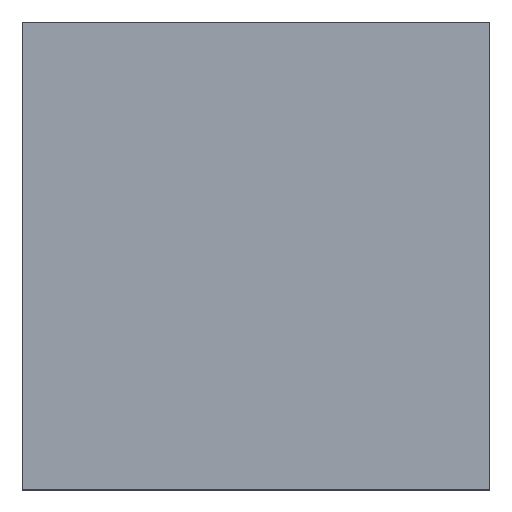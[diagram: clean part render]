
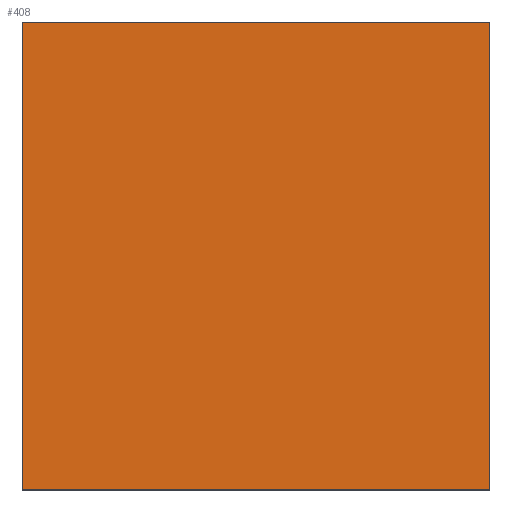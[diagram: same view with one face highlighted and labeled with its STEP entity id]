
A CAD part, top view. The second image highlights one B-rep face of the part: STEP entity #408.
In plain terms, the highlighted planar face has unit normal (0, 0, 1).
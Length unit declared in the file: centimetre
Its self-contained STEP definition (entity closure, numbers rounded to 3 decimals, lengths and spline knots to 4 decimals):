
#7 = EDGE_CURVE ( 'NONE', #375, #431, #370, .T. ) ;
#48 = CARTESIAN_POINT ( 'NONE',  ( 0., 1000., 1000. ) ) ;
#54 = LINE ( 'NONE', #210, #145 ) ;
#55 = VECTOR ( 'NONE', #372, 100. ) ;
#58 = LINE ( 'NONE', #48, #394 ) ;
#62 = ORIENTED_EDGE ( 'NONE', *, *, #207, .T. ) ;
#65 = EDGE_CURVE ( 'NONE', #392, #464, #54, .T. ) ;
#73 = ORIENTED_EDGE ( 'NONE', *, *, #65, .T. ) ;
#94 = EDGE_LOOP ( 'NONE', ( #275, #73, #62, #458 ) ) ;
#124 = EDGE_CURVE ( 'NONE', #431, #392, #58, .T. ) ;
#129 = AXIS2_PLACEMENT_3D ( 'NONE', #169, #425, #391 ) ;
#145 = VECTOR ( 'NONE', #296, 100. ) ;
#150 = CARTESIAN_POINT ( 'NONE',  ( 1000., 1000., 1000. ) ) ;
#169 = CARTESIAN_POINT ( 'NONE',  ( 0., 0., 1000. ) ) ;
#172 = CARTESIAN_POINT ( 'NONE',  ( 0., 0., 1000. ) ) ;
#206 = CARTESIAN_POINT ( 'NONE',  ( 1000., 1000., 1000. ) ) ;
#207 = EDGE_CURVE ( 'NONE', #464, #375, #339, .T. ) ;
#210 = CARTESIAN_POINT ( 'NONE',  ( 0., 0., 1000. ) ) ;
#215 = DIRECTION ( 'NONE',  ( 0., -1., 0. ) ) ;
#223 = VECTOR ( 'NONE', #253, 100. ) ;
#232 = PLANE ( 'NONE',  #129 ) ;
#253 = DIRECTION ( 'NONE',  ( -1., 0., 0. ) ) ;
#275 = ORIENTED_EDGE ( 'NONE', *, *, #124, .T. ) ;
#296 = DIRECTION ( 'NONE',  ( 1., 0., 0. ) ) ;
#339 = LINE ( 'NONE', #150, #55 ) ;
#348 = CARTESIAN_POINT ( 'NONE',  ( 0., 1000., 1000. ) ) ;
#359 = FACE_OUTER_BOUND ( 'NONE', #94, .T. ) ;
#370 = LINE ( 'NONE', #442, #223 ) ;
#372 = DIRECTION ( 'NONE',  ( 0., 1., 0. ) ) ;
#375 = VERTEX_POINT ( 'NONE', #206 ) ;
#391 = DIRECTION ( 'NONE',  ( 1., 0., 0. ) ) ;
#392 = VERTEX_POINT ( 'NONE', #172 ) ;
#394 = VECTOR ( 'NONE', #215, 100. ) ;
#408 = ADVANCED_FACE ( 'NONE', ( #359 ), #232, .T. ) ;
#425 = DIRECTION ( 'NONE',  ( 0., 0., 1. ) ) ;
#431 = VERTEX_POINT ( 'NONE', #348 ) ;
#442 = CARTESIAN_POINT ( 'NONE',  ( 0., 1000., 1000. ) ) ;
#458 = ORIENTED_EDGE ( 'NONE', *, *, #7, .T. ) ;
#464 = VERTEX_POINT ( 'NONE', #469 ) ;
#469 = CARTESIAN_POINT ( 'NONE',  ( 1000., 0., 1000. ) ) ;
